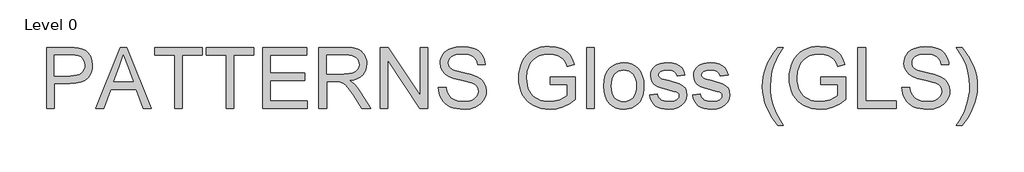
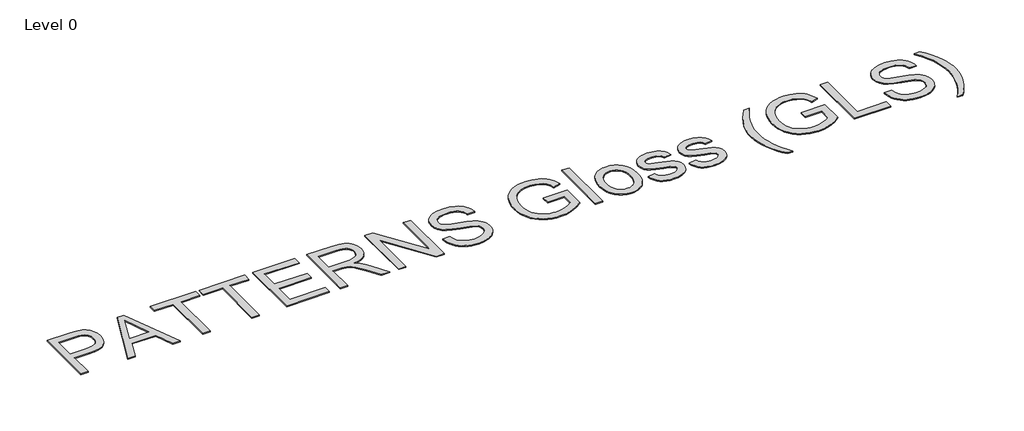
# One storey, part 4 of 29: 1 proxy.
"""IFC4 building model written with IfcOpenShell, lengths in millimetres."""

from ifc_helpers import new_model, si_unit, origin, origin_with_axes, place, context, project, spatial, polyline, outline, extrude, element, save

model = new_model("IFC4")

# Units and contexts
model_context = context("Model", 3, world=origin())
ifc_project = project(units=[si_unit("LENGTHUNIT", "METRE", prefix="MILLI")], contexts=[model_context])

# Site, building, storey
site = spatial("IfcSite", under=ifc_project)
building = spatial("IfcBuilding", under=site)
storey = spatial("IfcBuildingStorey", under=building, Name="Level 0", Elevation=0.0)

# Proxy
placement = place(None, origin())
element("IfcBuildingElementProxy", 1, Name="600mm Arial", ObjectType="600mm Arial", at=placement, inside=storey, context=model_context, shape_type="SweptSolid", body=[
    extrude(outline(polyline([(-10877.4631852, -37623.5419285), (-10877.4631852, -37020.8040676), (-10654.0852378, -37020.8040676), (-10602.0667237, -37022.2388074), (-10564.0277254, -37026.5430267), (-10523.8734056, -37037.2667869), (-10490.8192083, -37054.7227875), (-10464.202946, -37079.701975), (-10443.3624309, -37112.9952956), (-10429.8979499, -37152.2666985), (-10425.4097896, -37195.1801333), (-10428.4402175, -37232.1798649), (-10437.5315013, -37266.2181466), (-10452.683641, -37297.2949781), (-10473.8966365, -37325.4103596), (-10503.019095, -37348.715684), (-10541.8996233, -37365.3623443), (-10590.5382216, -37375.3503404), (-10648.9348898, -37378.6796725), (-10802.1209526, -37378.6796725), (-10802.1209526, -37623.5419285), (-10877.4631852, -37623.5419285)]), holes=[polyline([(-10802.1209526, -37303.3374399), (-10644.5203059, -37303.3374399), (-10608.2839294, -37301.6083945), (-10577.7129356, -37296.4212584), (-10552.8073245, -37287.7760315), (-10533.5670961, -37275.6727138), (-10519.2105013, -37260.4332022), (-10508.9557907, -37242.3793933), (-10502.8029643, -37221.5112871), (-10500.7520222, -37197.8288836), (-10505.5896704, -37163.9837401), (-10520.1026151, -37135.4360973), (-10542.4882345, -37113.9517887), (-10570.9439069, -37101.2966481), (-10600.0065845, -37097.4338872), (-10646.2861395, -37096.1463002), (-10802.1209526, -37096.1463002), (-10802.1209526, -37303.3374399)])]), origin_with_axes(), (0.0, 0.0, 1.0), 10.0),
    extrude(outline(polyline([(-10392.0061044, -37623.5419285), (-10151.4112796, -37020.8040676), (-10087.2526596, -37020.8040676), (-9846.6578348, -37623.5419285), (-9926.2674985, -37623.5419285), (-9995.2821608, -37435.1863469), (-10243.5289312, -37435.1863469), (-10312.3964406, -37623.5419285), (-10392.0061044, -37623.5419285)]), holes=[polyline([(-10215.8642051, -37359.8441143), (-10022.799734, -37359.8441143), (-10077.0991165, -37211.6612467), (-10119.3319696, -37096.1463002), (-10156.8559331, -37198.7118004), (-10215.8642051, -37359.8441143)])]), origin_with_axes(), (0.0, 0.0, 1.0), 10.0),
    extrude(outline(polyline([(-9615.480789, -37623.5419285), (-9615.480789, -37096.1463002), (-9813.2541496, -37096.1463002), (-9813.2541496, -37020.8040676), (-9342.3651958, -37020.8040676), (-9342.3651958, -37096.1463002), (-9540.1385564, -37096.1463002), (-9540.1385564, -37623.5419285), (-9615.480789, -37623.5419285)])), origin_with_axes(), (0.0, 0.0, 1.0), 10.0),
    extrude(outline(polyline([(-9106.9207189, -37623.5419285), (-9106.9207189, -37096.1463002), (-9304.6940795, -37096.1463002), (-9304.6940795, -37020.8040676), (-8833.8051256, -37020.8040676), (-8833.8051256, -37096.1463002), (-9031.5784862, -37096.1463002), (-9031.5784862, -37623.5419285), (-9106.9207189, -37623.5419285)])), origin_with_axes(), (0.0, 0.0, 1.0), 10.0),
    extrude(outline(polyline([(-8749.0451139, -37623.5419285), (-8749.0451139, -37020.8040676), (-8315.8272764, -37020.8040676), (-8315.8272764, -37096.1463002), (-8673.7028813, -37096.1463002), (-8673.7028813, -37275.0841026), (-8334.6628346, -37275.0841026), (-8334.6628346, -37350.4263352), (-8673.7028813, -37350.4263352), (-8673.7028813, -37548.1996959), (-8306.4094973, -37548.1996959), (-8306.4094973, -37623.5419285), (-8749.0451139, -37623.5419285)])), origin_with_axes(), (0.0, 0.0, 1.0), 10.0),
    extrude(outline(polyline([(-8193.3961484, -37623.5419285), (-8193.3961484, -37020.8040676), (-7933.6714598, -37020.8040676), (-7863.8658513, -37024.8691636), (-7813.0797418, -37037.0644518), (-7793.4808285, -37046.7581423), (-7775.9604485, -37059.5788299), (-7760.5186018, -37075.5265144), (-7747.1552883, -37094.6011958), (-7736.3717473, -37115.7774032), (-7728.669218, -37138.0296653), (-7724.0477005, -37161.3579824), (-7722.5071946, -37185.7623542), (-7725.0593759, -37216.7196241), (-7732.71592, -37245.1385082), (-7745.4768267, -37271.0190066), (-7763.3420961, -37294.3611192), (-7786.5416544, -37314.419885), (-7815.3054279, -37330.4503429), (-7849.6334166, -37342.452493), (-7889.5256204, -37350.4263352), (-7864.6935857, -37366.6499312), (-7846.7041562, -37382.652798), (-7815.8388568, -37419.2570565), (-7785.635745, -37460.2023226), (-7685.1303839, -37623.5419285), (-7772.6862987, -37623.5419285), (-7851.1187401, -37498.6092029), (-7907.7725674, -37415.9093304), (-7928.8338116, -37391.7946656), (-7947.5773993, -37376.8402625), (-7983.4091056, -37362.4928647), (-8027.1134866, -37359.8441143), (-8118.0539158, -37359.8441143), (-8118.0539158, -37623.5419285), (-8193.3961484, -37623.5419285)]), holes=[polyline([(-8118.0539158, -37284.5018817), (-7949.4168092, -37284.5018817), (-7900.9851446, -37281.8347372), (-7863.4059988, -37273.8333039), (-7835.1158733, -37259.9641526), (-7814.5512698, -37239.6938547), (-7802.0248879, -37215.1745197), (-7797.8494272, -37188.5582574), (-7799.8405885, -37169.2904379), (-7805.8140724, -37151.8068461), (-7815.7698789, -37136.1074819), (-7829.708008, -37122.1923454), (-7847.9503564, -37110.7972006), (-7870.818821, -37102.6578115), (-7898.3134016, -37097.774178), (-7930.4340983, -37096.1463002), (-8118.0539158, -37096.1463002), (-8118.0539158, -37284.5018817)])]), origin_with_axes(), (0.0, 0.0, 1.0), 10.0),
    extrude(outline(polyline([(-7590.6582875, -37623.5419285), (-7590.6582875, -37020.8040676), (-7510.0185542, -37020.8040676), (-7195.1115663, -37498.3148973), (-7195.1115663, -37020.8040676), (-7119.7693337, -37020.8040676), (-7119.7693337, -37623.5419285), (-7200.409067, -37623.5419285), (-7515.3160549, -37145.8839459), (-7515.3160549, -37623.5419285), (-7590.6582875, -37623.5419285)])), origin_with_axes(), (0.0, 0.0, 1.0), 10.0),
    extrude(outline(polyline([(-7016.1737639, -37416.3507888), (-6940.8315313, -37416.3507888), (-6932.1863044, -37458.1605775), (-6916.5513196, -37491.7665978), (-6892.1607433, -37518.4380424), (-6857.2487419, -37539.4441044), (-6814.5744305, -37553.0741323), (-6766.8969239, -37557.6174749), (-6724.9215883, -37554.1777783), (-6688.170177, -37543.8586883), (-6658.3901295, -37527.5247277), (-6637.3288852, -37506.0404192), (-6624.8025033, -37481.3739314), (-6620.6270427, -37455.4934331), (-6623.7540396, -37430.2751223), (-6633.1350305, -37408.4781141), (-6652.1913178, -37389.8816792), (-6684.3442042, -37374.2650885), (-6794.0466152, -37345.4967165), (-6866.0595157, -37326.4588233), (-6912.1367356, -37308.340635), (-6949.642305, -37282.9935655), (-6976.2217792, -37252.2754189), (-6992.0590991, -37216.8483828), (-6997.3382057, -37177.3746447), (-6995.7057294, -37154.9384415), (-6990.8083003, -37133.2471994), (-6982.6459185, -37112.3009183), (-6971.2185841, -37092.0995982), (-6956.6550556, -37073.4663752), (-6939.0840918, -37057.2243851), (-6918.5056927, -37043.373628), (-6894.9198583, -37031.9141038), (-6841.9080628, -37016.5182423), (-6783.2308845, -37011.3862885), (-6719.6608758, -37016.7573656), (-6664.0371181, -37032.870597), (-6639.7017241, -37044.8727471), (-6618.3461743, -37059.3948889), (-6599.9704686, -37076.4370223), (-6584.5746071, -37095.9991474), (-6572.2781514, -37117.5110471), (-6563.2006632, -37140.4025042), (-6557.3421424, -37164.6735188), (-6554.7025891, -37190.3240909), (-6630.0448217, -37190.3240909), (-6635.0848051, -37166.2830026), (-6643.8771847, -37145.3689111), (-6656.4219608, -37127.5818167), (-6672.7191332, -37112.9217192), (-6693.0722046, -37101.462195), (-6717.7846776, -37093.2768206), (-6746.8565522, -37088.365596), (-6780.2878286, -37086.7285211), (-6814.7859627, -37088.3472019), (-6844.2625075, -37093.2032442), (-6868.7174631, -37101.2966481), (-6888.1508295, -37112.6274136), (-6902.9580798, -37126.2482444), (-6913.5346872, -37141.2118446), (-6919.8806516, -37157.518214), (-6921.9959731, -37175.1673527), (-6920.496854, -37190.3516821), (-6915.9994966, -37204.1196658), (-6908.5039009, -37216.4713038), (-6898.010067, -37227.4065961), (-6881.4921654, -37237.7624742), (-6855.4829084, -37248.228717), (-6774.9903278, -37269.4922963), (-6691.9225733, -37289.6890178), (-6641.6698928, -37307.3105654), (-6598.7196698, -37334.6441977), (-6582.1143963, -37350.7114438), (-6568.7556813, -37368.3789766), (-6558.4871751, -37387.5548256), (-6551.1525279, -37408.1470203), (-6545.28481, -37453.5804467), (-6546.9724687, -37477.147887), (-6552.0354447, -37500.0255486), (-6560.4737379, -37522.2134314), (-6572.2873485, -37543.7115355), (-6587.2693427, -37563.6875279), (-6605.2127871, -37581.3090754), (-6626.1176814, -37596.5761782), (-6649.9840259, -37609.4888363), (-6676.1174431, -37619.7573424), (-6703.8235559, -37627.0919897), (-6763.953868, -37632.9597075), (-6802.4941055, -37631.377815), (-6837.7693903, -37626.6321372), (-6869.7797224, -37618.7226743), (-6898.5251018, -37607.6494263), (-6924.1802724, -37593.393999), (-6946.9199783, -37575.9379983), (-6966.7442193, -37555.2814243), (-6983.6529955, -37531.4242769), (-6997.2738264, -37505.1391083), (-7007.2342314, -37477.1984708), (-7013.5342106, -37447.6023643), (-7016.1737639, -37416.3507888)])), origin_with_axes(), (0.0, 0.0, 1.0), 10.0),
    extrude(outline(polyline([(-5914.2936119, -37388.0974516), (-5914.2936119, -37312.7552189), (-5669.4313559, -37312.7552189), (-5669.4313559, -37538.0461528), (-5728.9362686, -37579.4328772), (-5790.3173795, -37609.1209543), (-5853.4275358, -37627.0000192), (-5918.1195847, -37632.9597075), (-5961.3963029, -37630.5914672), (-6002.6404731, -37623.4867462), (-6041.8520952, -37611.6455444), (-6079.0311694, -37595.067862), (-6112.9774805, -37574.0020193), (-6142.4908135, -37548.6963365), (-6167.5711685, -37519.1508138), (-6188.2185455, -37485.3654511), (-6204.3455725, -37448.4209017), (-6215.8648775, -37409.3978191), (-6222.7764604, -37368.2962032), (-6225.0803214, -37325.116054), (-6222.7856575, -37281.9313063), (-6215.9016657, -37240.2272836), (-6204.4283459, -37200.0039859), (-6188.3656983, -37161.2614133), (-6167.9988314, -37125.70102), (-6143.6128536, -37095.0242601), (-6115.2077651, -37069.2311337), (-6082.7835657, -37048.3216408), (-6047.0438299, -37032.1624242), (-6008.6921319, -37020.6201266), (-5967.7284717, -37013.694748), (-5924.1528494, -37011.3862885), (-5862.0911568, -37016.7389715), (-5806.2834581, -37032.7970206), (-5781.3640515, -37044.5508504), (-5759.2865332, -37058.4016075), (-5740.0509034, -37074.349292), (-5723.657162, -37092.3939038), (-5697.2984171, -37136.4109846), (-5678.113371, -37192.0899245), (-5747.5694917, -37211.6612467), (-5763.0757178, -37171.9483853), (-5781.92967, -37141.9843968), (-5806.8720693, -37119.3964423), (-5840.6436365, -37101.8116829), (-5880.9083208, -37090.4993116), (-5925.3300718, -37086.7285211), (-5977.3301918, -37090.7936172), (-6021.7887309, -37102.9889053), (-6058.5401422, -37121.7876752), (-6087.4188788, -37145.6632167), (-6109.5837691, -37173.3831251), (-6126.1936411, -37203.7149956), (-6143.8519769, -37260.589552), (-6149.7380888, -37322.0258452), (-6147.9676567, -37359.6463778), (-6142.6563604, -37394.075534), (-6133.8041999, -37425.3133139), (-6121.4111752, -37453.3597175), (-6105.6382347, -37478.1089787), (-6086.6463267, -37499.4553315), (-6064.4354512, -37517.3987758), (-6039.0056083, -37531.9393117), (-6011.5478159, -37543.1735081), (-5983.2530919, -37551.1979341), (-5954.1214364, -37556.0125897), (-5924.1528494, -37557.6174749), (-5871.9687884, -37552.7798267), (-5821.0723143, -37538.266882), (-5776.8712926, -37518.2724955), (-5744.7735885, -37496.9905221), (-5744.7735885, -37388.0974516), (-5914.2936119, -37388.0974516)])), origin_with_axes(), (0.0, 0.0, 1.0), 10.0),
    extrude(outline(polyline([(-5556.418007, -37623.5419285), (-5556.418007, -37020.8040676), (-5481.0757744, -37020.8040676), (-5481.0757744, -37623.5419285), (-5556.418007, -37623.5419285)])), origin_with_axes(), (0.0, 0.0, 1.0), 10.0),
    extrude(outline(polyline([(-5386.8979836, -37402.2241202), (-5382.8236905, -37344.8989083), (-5370.6008112, -37295.5015534), (-5350.2293458, -37254.0320555), (-5321.7092941, -37220.4904146), (-5292.9961044, -37199.0520913), (-5261.3030705, -37183.7390032), (-5226.6301924, -37174.5511504), (-5188.9774702, -37171.4885328), (-5147.4114033, -37175.2179365), (-5109.827659, -37186.4061477), (-5076.2262372, -37205.0531663), (-5046.6071381, -37231.1589924), (-5022.4326925, -37263.8407092), (-5005.1652313, -37302.2153998), (-4994.8047546, -37346.2830643), (-4991.3512624, -37396.0437027), (-4992.8779727, -37436.3727664), (-4997.4581035, -37472.1584875), (-5005.0916549, -37503.4008659), (-5015.7786269, -37530.0999017), (-5029.3856622, -37553.1615043), (-5045.7794036, -37573.491583), (-5064.9598511, -37591.090138), (-5086.9270048, -37605.9571691), (-5110.8255389, -37617.7707797), (-5135.8001278, -37626.2090729), (-5161.8507716, -37631.2720489), (-5188.9774702, -37632.9597075), (-5231.1505424, -37629.2440994), (-5269.0837747, -37618.0972749), (-5302.7771669, -37599.5192342), (-5332.2307191, -37573.5099771), (-5356.1476474, -37540.5109622), (-5373.2311675, -37500.9636477), (-5383.4812796, -37454.8680337), (-5386.8979836, -37402.2241202)]), holes=[polyline([(-5311.555751, -37402.0769674), (-5309.3760502, -37438.6214451), (-5302.8369477, -37470.2638952), (-5291.9384436, -37497.0043177), (-5276.6805379, -37518.8427126), (-5258.1208912, -37535.8066711), (-5237.3171644, -37547.9237844), (-5214.2693574, -37555.1940523), (-5188.9774702, -37557.6174749), (-5163.8143418, -37555.1802567), (-5140.8585053, -37547.8686021), (-5120.1099607, -37535.682511), (-5101.5687082, -37518.6219834), (-5086.3108024, -37496.5674578), (-5075.4122983, -37469.3993725), (-5068.8731958, -37437.1177274), (-5066.693495, -37399.7225226), (-5068.8869914, -37364.3368732), (-5075.4674806, -37333.5221576), (-5086.4349626, -37307.2783757), (-5101.7894374, -37285.6055277), (-5120.3996678, -37268.6415692), (-5141.1344167, -37256.524456), (-5163.9936842, -37249.2541881), (-5188.9774702, -37246.8307654), (-5214.2693574, -37249.244991), (-5237.3171644, -37256.4876678), (-5258.1208912, -37268.5587957), (-5276.6805379, -37285.4583749), (-5291.9384436, -37307.2323905), (-5302.8369477, -37333.9268278), (-5309.3760502, -37365.5416867), (-5311.555751, -37402.0769674)])]), origin_with_axes(), (0.0, 0.0, 1.0), 10.0),
    extrude(outline(polyline([(-4934.844588, -37491.6930214), (-4859.5023553, -37482.2752423), (-4854.9498157, -37499.4553315), (-4847.6197669, -37514.5017051), (-4837.5122091, -37527.4143631), (-4824.6271422, -37538.1933056), (-4808.9277781, -37546.6913797), (-4790.3773284, -37552.7614326), (-4744.7231728, -37557.6174749), (-4699.6208402, -37553.1661028), (-4682.0912632, -37547.6018876), (-4667.9094123, -37539.8119864), (-4649.1474305, -37520.4613934), (-4644.4569351, -37509.6272687), (-4642.8934366, -37498.0205917), (-4644.4661321, -37487.8486545), (-4649.1842187, -37478.8171516), (-4668.0565651, -37464.1754482), (-4696.2731141, -37454.6105163), (-4745.6060896, -37442.6911396), (-4814.3632345, -37422.8071178), (-4859.0608969, -37405.8293637), (-4887.7740867, -37387.3065053), (-4908.5778135, -37362.7871703), (-4921.21456, -37333.8348573), (-4925.4268089, -37302.0130647), (-4922.0422945, -37272.8216284), (-4911.8887515, -37245.8742722), (-4895.8858847, -37222.237854), (-4874.9533991, -37202.9792316), (-4854.1496723, -37190.8575198), (-4827.0551634, -37180.6855827), (-4795.7300115, -37173.7877953), (-4762.2343558, -37171.4885328), (-4713.1956859, -37175.1857468), (-4670.5581626, -37186.277389), (-4636.2715607, -37203.6782074), (-4612.2856546, -37226.3029501), (-4596.3931524, -37255.8254802), (-4586.3867621, -37293.9196608), (-4661.7289947, -37303.3374399), (-4671.2387443, -37279.6274453), (-4690.0559084, -37261.7667744), (-4718.3644279, -37250.5647677), (-4756.3482439, -37246.8307654), (-4799.6111665, -37250.3992208), (-4828.4531149, -37261.1045868), (-4844.6767109, -37276.5556306), (-4850.0845763, -37294.3611192), (-4847.8404961, -37305.949402), (-4841.1082556, -37316.2868861), (-4829.5935491, -37325.5207242), (-4813.0020712, -37332.9151523), (-4748.1076872, -37348.9548073), (-4637.5223595, -37384.4186316), (-4608.312529, -37401.3779916), (-4586.1660329, -37424.5913455), (-4572.2049112, -37454.1322697), (-4567.551204, -37490.0743406), (-4573.0142516, -37527.2304221), (-4589.4033945, -37562.1792117), (-4616.0932332, -37592.1799884), (-4652.4583685, -37614.4920314), (-4696.3834787, -37628.3427885), (-4745.7532424, -37632.9597075), (-4786.3030354, -37630.7340215), (-4821.7208744, -37624.0569633), (-4852.0067597, -37612.9285329), (-4877.1606911, -37597.3487304), (-4897.7069005, -37577.3911322), (-4914.1696198, -37553.1293146), (-4926.548849, -37524.5632777), (-4934.844588, -37491.6930214)])), origin_with_axes(), (0.0, 0.0, 1.0), 10.0),
    extrude(outline(polyline([(-4511.0445295, -37491.6930214), (-4435.7022969, -37482.2752423), (-4431.1497572, -37499.4553315), (-4423.8197085, -37514.5017051), (-4413.7121506, -37527.4143631), (-4400.8270838, -37538.1933056), (-4385.1277196, -37546.6913797), (-4366.57727, -37552.7614326), (-4320.9231144, -37557.6174749), (-4275.8207818, -37553.1661028), (-4258.2912047, -37547.6018876), (-4244.1093538, -37539.8119864), (-4225.3473721, -37520.4613934), (-4220.6568766, -37509.6272687), (-4219.0933781, -37498.0205917), (-4220.6660737, -37487.8486545), (-4225.3841603, -37478.8171516), (-4244.2565066, -37464.1754482), (-4272.4730556, -37454.6105163), (-4321.8060312, -37442.6911396), (-4390.5631761, -37422.8071178), (-4435.2608385, -37405.8293637), (-4463.9740282, -37387.3065053), (-4484.7777551, -37362.7871703), (-4497.4145016, -37333.8348573), (-4501.6267504, -37302.0130647), (-4498.2422361, -37272.8216284), (-4488.088693, -37245.8742722), (-4472.0858262, -37222.237854), (-4451.1533407, -37202.9792316), (-4430.3496139, -37190.8575198), (-4403.2551049, -37180.6855827), (-4371.929953, -37173.7877953), (-4338.4342974, -37171.4885328), (-4289.3956274, -37175.1857468), (-4246.7581042, -37186.277389), (-4212.4715022, -37203.6782074), (-4188.4855961, -37226.3029501), (-4172.5930939, -37255.8254802), (-4162.5867037, -37293.9196608), (-4237.9289363, -37303.3374399), (-4247.4386859, -37279.6274453), (-4266.2558499, -37261.7667744), (-4294.5643694, -37250.5647677), (-4332.5481854, -37246.8307654), (-4375.8111081, -37250.3992208), (-4404.6530565, -37261.1045868), (-4420.8766525, -37276.5556306), (-4426.2845178, -37294.3611192), (-4424.0404377, -37305.949402), (-4417.3081971, -37316.2868861), (-4405.7934907, -37325.5207242), (-4389.2020127, -37332.9151523), (-4324.3076288, -37348.9548073), (-4213.722301, -37384.4186316), (-4184.5124706, -37401.3779916), (-4162.3659745, -37424.5913455), (-4148.4048528, -37454.1322697), (-4143.7511455, -37490.0743406), (-4149.2141932, -37527.2304221), (-4165.603336, -37562.1792117), (-4192.2931748, -37592.1799884), (-4228.65831, -37614.4920314), (-4272.5834202, -37628.3427885), (-4321.953184, -37632.9597075), (-4362.5029769, -37630.7340215), (-4397.920816, -37624.0569633), (-4428.2067012, -37612.9285329), (-4453.3606327, -37597.3487304), (-4473.9068421, -37577.3911322), (-4490.3695614, -37553.1293146), (-4502.7487905, -37524.5632777), (-4511.0445295, -37491.6930214)])), origin_with_axes(), (0.0, 0.0, 1.0), 10.0),
    extrude(outline(polyline([(-3672.8621917, -37793.0619518), (-3703.2768357, -37753.7077754), (-3731.2450643, -37711.1346315), (-3756.7668777, -37665.3425202), (-3779.8422759, -37616.3314414), (-3798.9629426, -37565.2510263), (-3812.6205617, -37513.2509063), (-3820.8151331, -37460.3310813), (-3823.5466569, -37406.4915513), (-3821.5049118, -37359.1727297), (-3815.3796766, -37312.8655835), (-3805.1709513, -37267.5701129), (-3790.8787358, -37223.2863177), (-3769.1553039, -37172.5002083), (-3742.244736, -37121.8244634), (-3710.1470319, -37071.2590832), (-3672.8621917, -37020.8040676), (-3616.3555172, -37020.8040676), (-3660.6852977, -37092.430692), (-3686.8417075, -37140.1449868), (-3710.90119, -37196.7988141), (-3729.2217134, -37255.8070861), (-3743.4587466, -37331.1861069), (-3748.2044243, -37406.9330097), (-3746.1442851, -37455.2313171), (-3739.9638676, -37503.5204275), (-3729.6631718, -37551.8003409), (-3715.2421975, -37600.0710572), (-3696.700945, -37648.3325764), (-3674.0394141, -37696.5848986), (-3647.2576048, -37744.8280238), (-3616.3555172, -37793.0619518), (-3672.8621917, -37793.0619518)])), origin_with_axes(), (0.0, 0.0, 1.0), 10.0),
    extrude(outline(polyline([(-3249.0621333, -37388.0974516), (-3249.0621333, -37312.7552189), (-3004.1998773, -37312.7552189), (-3004.1998773, -37538.0461528), (-3063.70479, -37579.4328772), (-3125.0859009, -37609.1209543), (-3188.1960572, -37627.0000192), (-3252.888106, -37632.9597075), (-3296.1648242, -37630.5914672), (-3337.4089944, -37623.4867462), (-3376.6206166, -37611.6455444), (-3413.7996907, -37595.067862), (-3447.7460018, -37574.0020193), (-3477.2593349, -37548.6963365), (-3502.3396899, -37519.1508138), (-3522.9870669, -37485.3654511), (-3539.1140938, -37448.4209017), (-3550.6333988, -37409.3978191), (-3557.5449818, -37368.2962032), (-3559.8488428, -37325.116054), (-3557.5541788, -37281.9313063), (-3550.670187, -37240.2272836), (-3539.1968673, -37200.0039859), (-3523.1342197, -37161.2614133), (-3502.7673527, -37125.70102), (-3478.3813749, -37095.0242601), (-3449.9762864, -37069.2311337), (-3417.552087, -37048.3216408), (-3381.8123512, -37032.1624242), (-3343.4606532, -37020.6201266), (-3302.4969931, -37013.694748), (-3258.9213707, -37011.3862885), (-3196.8596781, -37016.7389715), (-3141.0519795, -37032.7970206), (-3116.1325728, -37044.5508504), (-3094.0550546, -37058.4016075), (-3074.8194248, -37074.349292), (-3058.4256834, -37092.3939038), (-3032.0669384, -37136.4109846), (-3012.8818924, -37192.0899245), (-3082.338013, -37211.6612467), (-3097.8442391, -37171.9483853), (-3116.6981914, -37141.9843968), (-3141.6405907, -37119.3964423), (-3175.4121578, -37101.8116829), (-3215.6768422, -37090.4993116), (-3260.0985931, -37086.7285211), (-3312.0987131, -37090.7936172), (-3356.5572522, -37102.9889053), (-3393.3086636, -37121.7876752), (-3422.1874002, -37145.6632167), (-3444.3522904, -37173.3831251), (-3460.9621625, -37203.7149956), (-3478.6204982, -37260.589552), (-3484.5066102, -37322.0258452), (-3482.7361781, -37359.6463778), (-3477.4248818, -37394.075534), (-3468.5727213, -37425.3133139), (-3456.1796965, -37453.3597175), (-3440.406756, -37478.1089787), (-3421.414848, -37499.4553315), (-3399.2039725, -37517.3987758), (-3373.7741296, -37531.9393117), (-3346.3163372, -37543.1735081), (-3318.0216133, -37551.1979341), (-3288.8899578, -37556.0125897), (-3258.9213707, -37557.6174749), (-3206.7373097, -37552.7798267), (-3155.8408357, -37538.266882), (-3111.639814, -37518.2724955), (-3079.5421099, -37496.9905221), (-3079.5421099, -37388.0974516), (-3249.0621333, -37388.0974516)])), origin_with_axes(), (0.0, 0.0, 1.0), 10.0),
    extrude(outline(polyline([(-2881.7687493, -37623.5419285), (-2881.7687493, -37020.8040676), (-2806.4265167, -37020.8040676), (-2806.4265167, -37548.1996959), (-2505.0575862, -37548.1996959), (-2505.0575862, -37623.5419285), (-2881.7687493, -37623.5419285)])), origin_with_axes(), (0.0, 0.0, 1.0), 10.0),
    extrude(outline(polyline([(-2448.5509118, -37416.3507888), (-2373.2086791, -37416.3507888), (-2364.5634523, -37458.1605775), (-2348.9284675, -37491.7665978), (-2324.5378912, -37518.4380424), (-2289.6258898, -37539.4441044), (-2246.9515784, -37553.0741323), (-2199.2740718, -37557.6174749), (-2157.2987362, -37554.1777783), (-2120.5473249, -37543.8586883), (-2090.7672773, -37527.5247277), (-2069.7060331, -37506.0404192), (-2057.1796512, -37481.3739314), (-2053.0041905, -37455.4934331), (-2056.1311875, -37430.2751223), (-2065.5121784, -37408.4781141), (-2084.5684657, -37389.8816792), (-2116.7213521, -37374.2650885), (-2226.4237631, -37345.4967165), (-2298.4366636, -37326.4588233), (-2344.5138835, -37308.340635), (-2382.0194529, -37282.9935655), (-2408.5989271, -37252.2754189), (-2424.436247, -37216.8483828), (-2429.7153536, -37177.3746447), (-2428.0828772, -37154.9384415), (-2423.1854482, -37133.2471994), (-2415.0230664, -37112.3009183), (-2403.5957319, -37092.0995982), (-2389.0322035, -37073.4663752), (-2371.4612397, -37057.2243851), (-2350.8828406, -37043.373628), (-2327.2970061, -37031.9141038), (-2274.2852106, -37016.5182423), (-2215.6080324, -37011.3862885), (-2152.0380236, -37016.7573656), (-2096.414266, -37032.870597), (-2072.078872, -37044.8727471), (-2050.7233222, -37059.3948889), (-2032.3476165, -37076.4370223), (-2016.951755, -37095.9991474), (-2004.6552993, -37117.5110471), (-1995.5778111, -37140.4025042), (-1989.7192903, -37164.6735188), (-1987.079737, -37190.3240909), (-2062.4219696, -37190.3240909), (-2067.4619529, -37166.2830026), (-2076.2543326, -37145.3689111), (-2088.7991087, -37127.5818167), (-2105.0962811, -37112.9217192), (-2125.4493524, -37101.462195), (-2150.1618255, -37093.2768206), (-2179.2337001, -37088.365596), (-2212.6649764, -37086.7285211), (-2247.1631105, -37088.3472019), (-2276.6396554, -37093.2032442), (-2301.094611, -37101.2966481), (-2320.5279774, -37112.6274136), (-2335.3352277, -37126.2482444), (-2345.9118351, -37141.2118446), (-2352.2577995, -37157.518214), (-2354.373121, -37175.1673527), (-2352.8740019, -37190.3516821), (-2348.3766445, -37204.1196658), (-2340.8810488, -37216.4713038), (-2330.3872149, -37227.4065961), (-2313.8693133, -37237.7624742), (-2287.8600563, -37248.228717), (-2207.3674757, -37269.4922963), (-2124.2997212, -37289.6890178), (-2074.0470407, -37307.3105654), (-2031.0968177, -37334.6441977), (-2014.4915442, -37350.7114438), (-2001.1328292, -37368.3789766), (-1990.864323, -37387.5548256), (-1983.5296757, -37408.1470203), (-1977.6619579, -37453.5804467), (-1979.3496166, -37477.147887), (-1984.4125925, -37500.0255486), (-1992.8508858, -37522.2134314), (-2004.6644964, -37543.7115355), (-2019.6464906, -37563.6875279), (-2037.5899349, -37581.3090754), (-2058.4948293, -37596.5761782), (-2082.3611738, -37609.4888363), (-2108.494591, -37619.7573424), (-2136.2007037, -37627.0919897), (-2196.3310159, -37632.9597075), (-2234.8712534, -37631.377815), (-2270.1465382, -37626.6321372), (-2302.1568703, -37618.7226743), (-2330.9022497, -37607.6494263), (-2356.5574203, -37593.393999), (-2379.2971262, -37575.9379983), (-2399.1213672, -37555.2814243), (-2416.0301434, -37531.4242769), (-2429.6509742, -37505.1391083), (-2439.6113793, -37477.1984708), (-2445.9113584, -37447.6023643), (-2448.5509118, -37416.3507888)])), origin_with_axes(), (0.0, 0.0, 1.0), 10.0),
    extrude(outline(polyline([(-1855.2308299, -37793.0619518), (-1911.7375044, -37793.0619518), (-1880.8354168, -37744.8280238), (-1854.0536075, -37696.5848986), (-1831.3920766, -37648.3325764), (-1812.8508241, -37600.0710572), (-1798.4298499, -37551.8003409), (-1788.129154, -37503.5204275), (-1781.9487365, -37455.2313171), (-1779.8885973, -37406.9330097), (-1784.6342751, -37331.7379299), (-1798.8713083, -37257.1314613), (-1816.8607378, -37198.0128246), (-1840.8098557, -37141.3222092), (-1867.0766302, -37093.0928796), (-1911.7375044, -37020.8040676), (-1855.2308299, -37020.8040676), (-1817.9459897, -37071.2590832), (-1785.8482856, -37121.8244634), (-1758.9377177, -37172.5002083), (-1737.2142859, -37223.2863177), (-1722.9220704, -37267.5701129), (-1712.713345, -37312.8655835), (-1706.5881098, -37359.1727297), (-1704.5463647, -37406.4915513), (-1707.2916841, -37460.3310813), (-1715.5276423, -37513.2509063), (-1729.2542392, -37565.2510263), (-1748.4714749, -37616.3314414), (-1771.615851, -37665.3425202), (-1797.1238688, -37711.1346315), (-1824.9955285, -37753.7077754), (-1855.2308299, -37793.0619518)])), origin_with_axes(), (0.0, 0.0, 1.0), 10.0),
])

save(model, "model.ifc")
